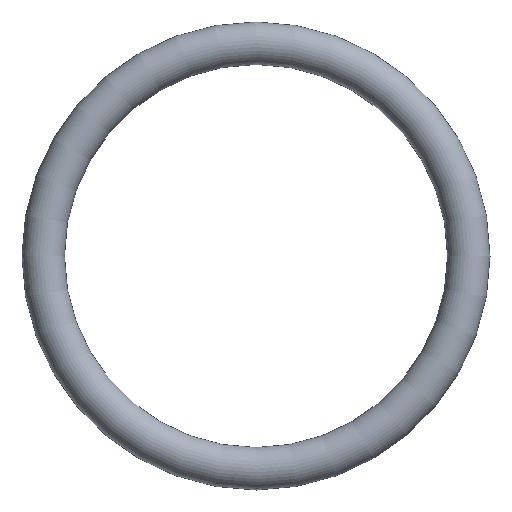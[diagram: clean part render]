
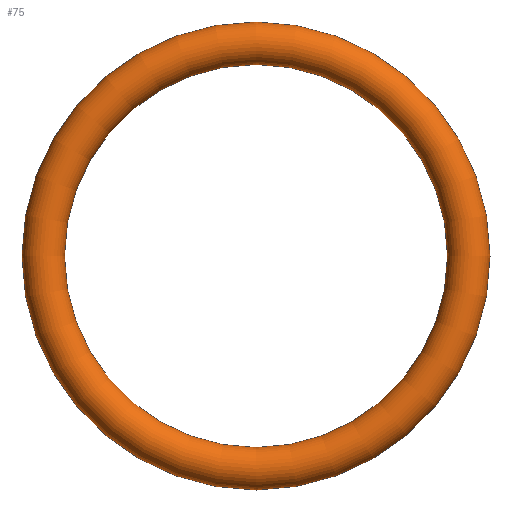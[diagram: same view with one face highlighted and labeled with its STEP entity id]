
A CAD part, front view. The second image highlights one B-rep face of the part: STEP entity #75.
In plain terms, the highlighted toroidal (fillet/blend) face has major radius 25 mm and minor radius 2.5 mm.
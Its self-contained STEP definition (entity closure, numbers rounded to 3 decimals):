
#75 = ADVANCED_FACE( '', ( #77 ), #78, .T. );
#77 = FACE_BOUND( '', #79, .T. );
#78 = TOROIDAL_SURFACE( '', #80, 25., 2.5 );
#79 = VERTEX_LOOP( '', #81 );
#80 = AXIS2_PLACEMENT_3D( '', #82, #83, #84 );
#81 = VERTEX_POINT( '', #85 );
#82 = CARTESIAN_POINT( '', ( 0., 0., 0. ) );
#83 = DIRECTION( '', ( 0., -1., 0. ) );
#84 = DIRECTION( '', ( 0., 0., -1. ) );
#85 = CARTESIAN_POINT( '', ( 0., 0., -27.5 ) );
